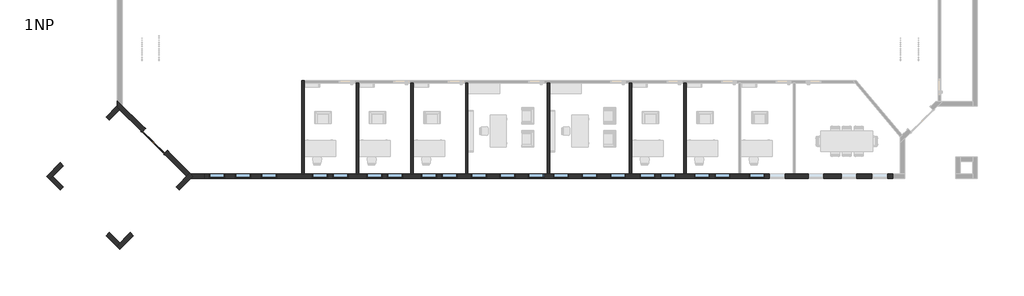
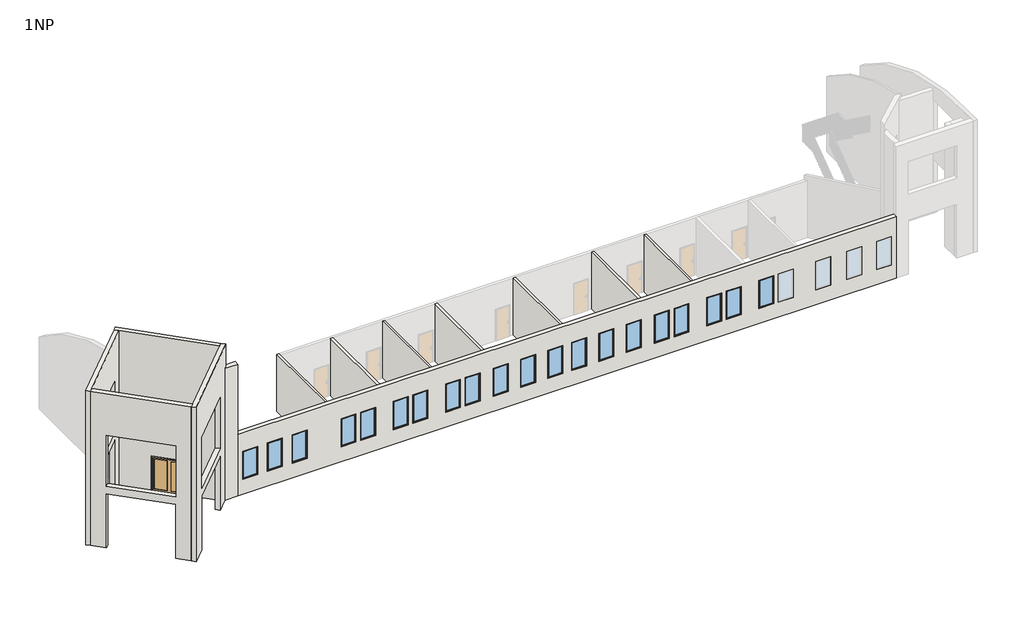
# One storey, part 1 of 3: 20 windows, 13 walls, 1 door.
"""IFC4 building model written with IfcOpenShell, lengths in millimetres."""

import ifcopenshell
import ifcopenshell.guid

model = None  # the IFC model being written
_history = None  # IfcOwnerHistory: only IFC2X3 demands one
_inside = {}  # id of a spatial element -> (the spatial element, [elements in it])
_under = {}  # id of a project, library or spatial element -> (it, [spatial elements below it])
_declared = {}  # id of a project -> (the project, [libraries it declares])
_typed = {}  # id of a type object -> (the type object, [elements of that type])
_made_of = {}  # id of a material, layer set ... -> (it, [elements and type objects made of it])


def new_model(schema):
    """Start an empty IFC model of exactly this schema.

    Asked for "IFC4X3", IfcOpenShell would pick the latest addendum, in which some entities
    have other attributes; the version numbers below select the first issue.
    IFC2X3 requires an IfcOwnerHistory on every rooted entity: one is made here for all.
    """
    global model, _history
    if schema == "IFC4X3":
        model = ifcopenshell.file(schema_version=(4, 3, 0, 0))
    else:
        model = ifcopenshell.file(schema=schema)
    _inside.clear()
    _under.clear()
    _declared.clear()
    _typed.clear()
    _made_of.clear()
    _history = None
    if model.schema == "IFC2X3":
        org = make("IfcOrganization", Name="unknown")
        user = make(
            "IfcPersonAndOrganization",
            ThePerson=make("IfcPerson", FamilyName="unknown"),
            TheOrganization=org,
        )
        app = make(
            "IfcApplication",
            ApplicationDeveloper=org,
            Version="unknown",
            ApplicationFullName="unknown",
            ApplicationIdentifier="unknown",
        )
        _history = make(
            "IfcOwnerHistory",
            OwningUser=user,
            OwningApplication=app,
            ChangeAction="ADDED",
            CreationDate=0,
        )
    return model


def make(cls, **values):
    """One entity of the class cls with the attributes given. An attribute that is None is left unset."""
    return model.create_entity(
        cls, **{name: value for name, value in values.items() if value is not None}
    )


def rooted(cls, **values):
    """An entity with a GlobalId (a new one), such as an element, a storey or a relation."""
    return make(cls, GlobalId=ifcopenshell.guid.new(), OwnerHistory=_history, **values)


def si_unit(unit_type, name, prefix=None):
    """IfcSIUnit, for example si_unit("LENGTHUNIT", "METRE", prefix="MILLI")."""
    return make("IfcSIUnit", UnitType=unit_type, Prefix=prefix, Name=name)


def assignment(units):
    """IfcUnitAssignment: the units of a project."""
    return None if units is None else make("IfcUnitAssignment", Units=units)


def point(xyz):
    """IfcCartesianPoint."""
    return None if xyz is None else make("IfcCartesianPoint", Coordinates=xyz)


def direction(xyz):
    """IfcDirection."""
    return None if xyz is None else make("IfcDirection", DirectionRatios=xyz)


def frame(location, z_axis=None, x_axis=None):
    """IfcAxis2Placement3D, a coordinate frame: its origin and axes. An axis left out is left unset."""
    return make(
        "IfcAxis2Placement3D",
        Location=point(location),
        Axis=direction(z_axis),
        RefDirection=direction(x_axis),
    )


def origin():
    """The frame at (0, 0, 0) with its axes left unset."""
    return frame((0.0, 0.0, 0.0))


def origin_with_axes():
    """The frame at (0, 0, 0) with the z axis (0, 0, 1) and the x axis (1, 0, 0) written out."""
    return frame((0.0, 0.0, 0.0), z_axis=(0.0, 0.0, 1.0), x_axis=(1.0, 0.0, 0.0))


def place(relative_to, where):
    """IfcLocalPlacement: puts the frame where relative to a parent placement (None: the world)."""
    return make(
        "IfcLocalPlacement", PlacementRelTo=relative_to, RelativePlacement=where
    )


def context(
    kind, dimensions, precision=None, world=None, true_north=None, identifier=None
):
    """IfcGeometricRepresentationContext, for example the 3D "Model" context."""
    return make(
        "IfcGeometricRepresentationContext",
        ContextIdentifier=identifier,
        ContextType=kind,
        CoordinateSpaceDimension=dimensions,
        Precision=precision,
        WorldCoordinateSystem=world,
        TrueNorth=true_north,
    )


def project(units=None, contexts=None):
    """IfcProject with its units and contexts."""
    return rooted(
        "IfcProject",
        Name="project",
        RepresentationContexts=contexts,
        UnitsInContext=assignment(units),
    )


def spatial(cls, under=None, at=None, **own):
    """A site, building, storey or space (cls), placed at a placement, below another one or the project."""
    s = rooted(cls, ObjectPlacement=at, **own)
    if under is not None:
        _under.setdefault(under.id(), (under, []))[1].append(s)
    return s


def polyline(points):
    """IfcPolyline through the points."""
    return make("IfcPolyline", Points=[point(p) for p in points])


def circle_curve(where, radius):
    """IfcCircle in the frame where."""
    return make("IfcCircle", Position=where, Radius=radius)


def ellipse_curve(where, semi_axis1, semi_axis2):
    """IfcEllipse in the frame where."""
    return make(
        "IfcEllipse", Position=where, SemiAxis1=semi_axis1, SemiAxis2=semi_axis2
    )


def outline(outer, holes=None, kind="AREA"):
    """IfcArbitraryClosedProfileDef: a profile drawn as a closed curve; with holes, ...WithVoids."""
    if holes is None:
        return make("IfcArbitraryClosedProfileDef", ProfileType=kind, OuterCurve=outer)
    return make(
        "IfcArbitraryProfileDefWithVoids",
        ProfileType=kind,
        OuterCurve=outer,
        InnerCurves=holes,
    )


def extrude(swept, where, along, depth):
    """IfcExtrudedAreaSolid: the profile swept, set in the frame where, extruded along a direction by depth."""
    return make(
        "IfcExtrudedAreaSolid",
        SweptArea=swept,
        Position=where,
        ExtrudedDirection=direction(along),
        Depth=depth,
    )


def faces_of(points, faces, orient=None, outer=None):
    """IfcFace entities. A face is a list of loops; a loop is a list of indices into points, from 0.

    orient and outer hold one flag for each loop. By default every Orientation is true, the
    first loop of a face is its IfcFaceOuterBound and the others are IfcFaceBound.
    """
    made = []
    for i, loops in enumerate(faces):
        bounds = []
        for j, loop in enumerate(loops):
            is_outer = j == 0 if outer is None else outer[i][j]
            bounds.append(
                make(
                    "IfcFaceOuterBound" if is_outer else "IfcFaceBound",
                    Bound=make("IfcPolyLoop", Polygon=[points[k] for k in loop]),
                    Orientation=True if orient is None else orient[i][j],
                )
            )
        made.append(make("IfcFace", Bounds=bounds))
    return made


def faceted_brep(points, faces, orient=None, outer=None, voids=None):
    """IfcFacetedBrep: a solid bounded by flat faces; with voids (closed shells), ...WithVoids."""
    shared = [point(p) for p in points]
    hull = make("IfcClosedShell", CfsFaces=faces_of(shared, faces, orient, outer))
    if voids is None:
        return make("IfcFacetedBrep", Outer=hull)
    return make(
        "IfcFacetedBrepWithVoids",
        Outer=hull,
        Voids=[
            make(cls, CfsFaces=faces_of(shared, fs, o, b)) for cls, fs, o, b in voids
        ],
    )


def shape(context_of_items, identifier, shape_type, items):
    """IfcShapeRepresentation: the items that make up one representation, for example the "Body"."""
    return make(
        "IfcShapeRepresentation",
        ContextOfItems=context_of_items,
        RepresentationIdentifier=identifier,
        RepresentationType=shape_type,
        Items=items,
    )


def source(mapping_origin, context_of_items, identifier, shape_type, items):
    """IfcRepresentationMap: a shape defined once, which mapped items show again and again."""
    return make(
        "IfcRepresentationMap",
        MappingOrigin=mapping_origin,
        MappedRepresentation=shape(context_of_items, identifier, shape_type, items),
    )


def transform(
    local_origin,
    x_axis=None,
    y_axis=None,
    z_axis=None,
    scale=None,
    scale2=None,
    scale3=None,
    uniform=True,
):
    """IfcCartesianTransformationOperator3D, or its non-uniform kind. x_axis, y_axis, z_axis: its Axis1, 2, 3."""
    if uniform:
        return make(
            "IfcCartesianTransformationOperator3D",
            Axis1=direction(x_axis),
            Axis2=direction(y_axis),
            LocalOrigin=point(local_origin),
            Scale=scale,
            Axis3=direction(z_axis),
        )
    return make(
        "IfcCartesianTransformationOperator3DnonUniform",
        Axis1=direction(x_axis),
        Axis2=direction(y_axis),
        LocalOrigin=point(local_origin),
        Scale=scale,
        Axis3=direction(z_axis),
        Scale2=scale2,
        Scale3=scale3,
    )


def mapped(mapping_source, mapping_target):
    """IfcMappedItem: shows the shape of a source again, moved by a transform."""
    return make(
        "IfcMappedItem", MappingSource=mapping_source, MappingTarget=mapping_target
    )


def made_of(thing, what):
    """Note that an element or type object is made of a material, layer set ...; save() writes the relation."""
    if what is not None:
        _made_of.setdefault(what.id(), (what, []))[1].append(thing)
    return thing


def element(
    cls,
    number,
    at=None,
    inside=None,
    cuts=None,
    type_object=None,
    material=None,
    context=None,
    identifier="Body",
    shape_type=None,
    held_by="IfcProductDefinitionShape",
    body=None,
    shapes=None,
    **own,
):
    """One element of the class cls, such as IfcWall. Its Tag is "e" and its number.

    at: its placement. inside: the storey or other place that contains it. cuts: it is an
    opening in that element (IfcRelVoidsElement). A single representation is given by context,
    identifier, shape_type and body (its items); several are given by shapes. held_by: the class
    of the entity that holds the representations. save() writes the other relations.
    """
    e = rooted(cls, Tag="e%d" % number, ObjectPlacement=at, **own)
    if body is not None:
        shapes = [shape(context, identifier, shape_type, body)]
    if shapes is not None:
        e.Representation = make(held_by, Representations=shapes)
    if inside is not None:
        _inside.setdefault(inside.id(), (inside, []))[1].append(e)
    if cuts is not None:
        rooted(
            "IfcRelVoidsElement", RelatingBuildingElement=cuts, RelatedOpeningElement=e
        )
    if type_object is not None:
        _typed.setdefault(type_object.id(), (type_object, []))[1].append(e)
    return made_of(e, material)


def aggregate(whole, parts):
    """IfcRelAggregates: a whole, such as a stair, and the parts it consists of."""
    return rooted("IfcRelAggregates", RelatingObject=whole, RelatedObjects=parts)


def save(model, path):
    """Write the relations noted so far, then the file.

    IfcRelAggregates (storeys below a building ...), IfcRelContainedInSpatialStructure (elements
    in a storey), IfcRelDefinesByType, IfcRelAssociatesMaterial and IfcRelDeclares: one each for
    every whole, place, type object, material and project.
    """
    for whole, parts in _under.values():
        aggregate(whole, parts)
    for where, things in _inside.values():
        rooted(
            "IfcRelContainedInSpatialStructure",
            RelatedElements=things,
            RelatingStructure=where,
        )
    for kind, things in _typed.values():
        rooted("IfcRelDefinesByType", RelatedObjects=things, RelatingType=kind)
    for what, things in _made_of.values():
        rooted("IfcRelAssociatesMaterial", RelatedObjects=things, RelatingMaterial=what)
    for by, libraries in _declared.values():
        rooted("IfcRelDeclares", RelatingContext=by, RelatedDefinitions=libraries)
    model.write(path)


def plane_surface(at):
    """IfcPlane: the flat surface through the origin of the frame at, square to its z axis."""
    return make("IfcPlane", Position=at)


def cylinder_surface(at, radius):
    """IfcCylindricalSurface: all points at the distance radius from the z axis of the frame at."""
    return make("IfcCylindricalSurface", Position=at, Radius=radius)


def advanced_brep(points, edges, surfaces, faces):
    """IfcAdvancedBrep: a solid bounded by faces that lie on surfaces and meet in shared edges.

    An edge is (start, end): straight between two places in points (the first is 0);
    or (start, end, curve); or (start, end, curve, False) where it runs against its curve.
    A face is (place in surfaces, loops), or (place, loops, False) where it looks against
    its surface's normal. A loop lists edges by number (the first is 1), with a minus sign
    where the edge is run from its end to its start. The first loop is the outer one.
    """
    corners = [point(p) for p in points]
    vertices = [make("IfcVertexPoint", VertexGeometry=c) for c in corners]
    made = []
    for start, end, *more in edges:
        made.append(
            make(
                "IfcEdgeCurve",
                EdgeStart=vertices[start],
                EdgeEnd=vertices[end],
                EdgeGeometry=more[0] if more else make("IfcPolyline", Points=[corners[start], corners[end]]),
                SameSense=more[1] if len(more) > 1 else True,
            )
        )
    hull = []
    for where, loops, *sense in faces:
        bounds = []
        for j, loop in enumerate(loops):
            ring = [make("IfcOrientedEdge", EdgeElement=made[abs(k) - 1], Orientation=k > 0) for k in loop]
            bounds.append(
                make(
                    "IfcFaceOuterBound" if j == 0 else "IfcFaceBound",
                    Bound=make("IfcEdgeLoop", EdgeList=ring),
                    Orientation=True,
                )
            )
        hull.append(make("IfcAdvancedFace", Bounds=bounds, FaceSurface=surfaces[where], SameSense=sense[0] if sense else True))
    return make("IfcAdvancedBrep", Outer=make("IfcClosedShell", CfsFaces=hull))


def door_1800_x_1970mm_ce9160c6(model_context):
    return source(origin(), model_context, "Body", "SweptSolid", [
        extrude(outline(polyline([(0.0, 991.0), (2210.0, 991.0), (2210.0, -991.0), (0.0, -991.0), (0.0, -915.0), (2134.0, -915.0), (2134.0, 915.0), (0.0, 915.0), (0.0, 991.0)])), frame((0.0, -156.11875, 0.0), z_axis=(0.0, 1.0, 0.0), x_axis=(0.0, 0.0, 1.0)), (0.0, 0.0, 1.0), 25.0),
        extrude(outline(polyline([(2134.0, 915.0), (0.0, 915.0), (0.0, 991.0), (2210.0, 991.0), (2210.0, -991.0), (0.0, -991.0), (0.0, -915.0), (2134.0, -915.0), (2134.0, 915.0)])), frame((0.0, 135.88125, 0.0), z_axis=(0.0, 1.0, 0.0), x_axis=(0.0, 0.0, 1.0)), (0.0, 0.0, 1.0), 25.0),
        extrude(outline(polyline([(813.4, 110.48125), (101.6, 110.48125), (101.6, 117.625), (813.4, 117.625), (813.4, 110.48125)])), frame((0.0, 0.0, 102.0), z_axis=(0.0, 0.0, 1.0), x_axis=(1.0, 0.0, 0.0)), (0.0, 0.0, 1.0), 1930.0),
        extrude(outline(polyline([(-101.6, 110.48125), (-813.4, 110.48125), (-813.4, 117.625), (-101.6, 117.625), (-101.6, 110.48125)])), frame((0.0, 0.0, 102.0), z_axis=(0.0, 0.0, 1.0), x_axis=(1.0, 0.0, 0.0)), (0.0, 0.0, 1.0), 1930.0),
        extrude(outline(polyline([(2134.0, 915.0), (2134.0, -915.0), (0.0, -915.0), (0.0, 915.0), (2134.0, 915.0)]), holes=[polyline([(2032.0, -101.6), (102.0, -101.6), (102.0, -813.4), (2032.0, -813.4), (2032.0, -101.6)]), polyline([(2032.0, 813.4), (102.0, 813.4), (102.0, 101.6), (2032.0, 101.6), (2032.0, 813.4)])]), frame((0.0, 84.88125, 0.0), z_axis=(0.0, 1.0, 0.0), x_axis=(0.0, 0.0, 1.0)), (0.0, 0.0, 1.0), 51.0),
    ])


def window_0915_x_1830mm_7ee91fd3(model_context):
    return source(origin(), model_context, "Body", "SweptSolid", [
        extrude(outline(polyline([(-394.5, 111.5), (394.5, 111.5), (394.5, 99.5), (-394.5, 99.5), (-394.5, 111.5)])), frame((0.0, 0.0, 368.0), z_axis=(0.0, 0.0, 1.0), x_axis=(1.0, 0.0, 0.0)), (0.0, 0.0, 1.0), 1704.0),
        extrude(outline(polyline([(2116.0, -438.5), (324.0, -438.5), (324.0, 438.5), (2116.0, 438.5), (2116.0, -438.5)]), holes=[polyline([(2072.0, -394.5), (2072.0, 394.5), (368.0, 394.5), (368.0, -394.5), (2072.0, -394.5)])]), frame((0.0, 83.5, 0.0), z_axis=(0.0, 1.0, 0.0), x_axis=(0.0, 0.0, 1.0)), (0.0, 0.0, 1.0), 44.0),
        extrude(outline(polyline([(2135.0, -457.5), (305.0, -457.5), (305.0, 457.5), (2135.0, 457.5), (2135.0, -457.5)]), holes=[polyline([(2116.0, -438.5), (2116.0, 438.5), (324.0, 438.5), (324.0, -438.5), (2116.0, -438.5)])]), frame((0.0, 83.5, 0.0), z_axis=(0.0, 1.0, 0.0), x_axis=(0.0, 0.0, 1.0)), (0.0, 0.0, 1.0), 63.0),
        extrude(outline(polyline([(2135.0, -457.5), (305.0, -457.5), (305.0, 457.5), (2135.0, 457.5), (2135.0, -457.5)]), holes=[polyline([(2103.0, -425.5), (2103.0, 425.5), (337.0, 425.5), (337.0, -425.5), (2103.0, -425.5)])]), frame((0.0, -120.5, 0.0), z_axis=(0.0, 1.0, 0.0), x_axis=(0.0, 0.0, 1.0)), (0.0, 0.0, 1.0), 204.0),
    ])


model = new_model("IFC4")

# Units and contexts
model_context = context("Model", 3, world=origin())
ifc_project = project(units=[si_unit("LENGTHUNIT", "METRE", prefix="MILLI")], contexts=[model_context])

# Site, building, storey
site = spatial("IfcSite", under=ifc_project)
building = spatial("IfcBuilding", under=site)
storey = spatial("IfcBuildingStorey", under=building, Name="1NP", Elevation=0.0)

# Door
placement = place(None, origin())
door_1800_x_1970mm_shape = door_1800_x_1970mm_ce9160c6(model_context)
element("IfcDoor", 1, ObjectType="Dvoukridle prosklene : 1800 x 1970mm", at=placement, inside=storey, context=model_context, shape_type="MappedRepresentation", body=[
    mapped(door_1800_x_1970mm_shape, transform((-9492.0310093, -2706.151406, 0.0), x_axis=(-0.7071067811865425, 0.7071067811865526, 0.0), y_axis=(-0.7071067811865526, -0.7071067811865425, 0.0), z_axis=(0.0, 0.0, 1.0))),
])

# Walls
element("IfcWall", 2, ObjectType="Exterior - EIFS on Mtl. Stud", at=placement, inside=storey, context=model_context, shape_type="AdvancedBrep", body=[
    advanced_brep(
    [(-6587.8076313, -4624.9448694, 0.0), (-7387.8076313, -4624.9448694, 0.0), (-7387.8076313, -4624.9448694, 8556.4380679), (-6587.8076313, -4624.9448694, 8556.4380679), (-6587.8076313, -4624.9448694, 8000.0), (-6587.8076313, -4624.9448694, 4000.0), (-6587.8076313, -4891.9448694, 0.0), (-6587.8076313, -4891.9448694, 4000.0), (-6587.8076313, -4891.9448694, 8000.0), (-6587.8076313, -4891.9448694, 8541.7849302), (-7387.8076313, -4891.9448694, 8541.7849302), (-7387.8076313, -4891.9448694, 0.0), (-7254.3076313, -4758.4448694, 0.0), (-7254.3076313, -4758.4448694, 8549.6141311)],
    [
        (0, 1),
        (1, 2),
        (2, 3),
        (3, 4),
        (4, 5),
        (5, 0),
        (6, 7),
        (7, 8),
        (8, 9),
        (9, 10),
        (10, 11),
        (11, 6),
        (0, 6),
        (11, 12),
        (12, 1),
        (3, 9, circle_curve(frame((-6587.8076313, -3782.5530793, -9232.9575956), z_axis=(1.0, 0.0, 0.0), x_axis=(0.0, -1.0, 0.0)), 17809.3296337)),
        (12, 13),
        (13, 2, ellipse_curve(frame((-8230.1994214, -3782.5530793, -9232.9575956), z_axis=(-0.7071067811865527, -0.7071067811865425, 0.0), x_axis=(0.7071067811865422, -0.7071067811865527, 0.0)), 25186.1955048, 17809.3296337)),
        (10, 13, ellipse_curve(frame((-6278.4158411, -3782.5530793, -9232.9575956), z_axis=(-0.7071067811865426, 0.7071067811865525, 0.0), x_axis=(0.7071067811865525, 0.7071067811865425, 0.0)), 25186.1955048, 17809.3296337)),
    ],
    [
        plane_surface(frame((12455.6755273, -4624.9448694, 0.0), z_axis=(0.0, 1.0, 0.0), x_axis=(-1.0, 0.0, 0.0))),
        plane_surface(frame((12455.6755273, -4891.9448694, 0.0), z_axis=(0.0, -1.0, 0.0), x_axis=(1.0, 0.0, 0.0))),
        plane_surface(frame((-6587.8076313, -4624.9448694, 0.0), z_axis=(0.0, 0.0, -1.0), x_axis=(0.0, -1.0, 0.0))),
        plane_surface(frame((-6587.8076313, -4624.9448694, 4000.0), z_axis=(1.0, 0.0, 0.0), x_axis=(0.0, -1.0, 0.0))),
        plane_surface(frame((-9352.1166743, -2660.6358263, -427.8219034), z_axis=(-0.7071067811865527, -0.7071067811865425, 0.0), x_axis=(0.7071067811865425, -0.7071067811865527, 0.0))),
        plane_surface(frame((-9352.1166743, -6856.2539125, -427.8219034), z_axis=(-0.7071067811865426, 0.7071067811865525, 0.0), x_axis=(-0.7071067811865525, -0.7071067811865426, 0.0))),
        cylinder_surface(frame((39922.6755273, -3782.5530793, -9232.9575956), z_axis=(1.0, 0.0, 0.0), x_axis=(0.0, -1.0, 0.0)), 17809.3296337),
    ],
    [
        (0, [[1, 2, 3, 4, 5, 6]]),
        (1, [[7, 8, 9, 10, 11, 12]]),
        (2, [[-1, 13, -12, 14, 15]]),
        (3, [[-6, -5, -4, 16, -9, -8, -7, -13]]),
        (4, [[-2, -15, 17, 18]]),
        (5, [[-14, -11, 19, -17]]),
        (6, [[-3, -18, -19, -10, -16]]),
    ],
),
])
element("IfcWall", 3, ObjectType="Exterior - EIFS on Mtl. Stud", at=placement, inside=storey, context=model_context, shape_type="Brep", body=[
    faceted_brep([(33755.6755273, -4624.9448694, 0.0), (28058.4255273, -4624.9448694, 0.0), (27919.9255273, -4624.9448694, 0.0), (24858.4255273, -4624.9448694, 0.0), (24719.9255273, -4624.9448694, 0.0), (21658.4255273, -4624.9448694, 0.0), (21519.9255273, -4624.9448694, 0.0), (18458.4255273, -4624.9448694, 0.0), (18319.9255273, -4624.9448694, 0.0), (13658.4255273, -4624.9448694, 0.0), (13519.9255273, -4624.9448694, 0.0), (8858.4255273, -4624.9448694, 0.0), (8719.9255273, -4624.9448694, 0.0), (5658.4255273, -4624.9448694, 0.0), (5519.9255273, -4624.9448694, 0.0), (2458.4255273, -4624.9448694, 0.0), (2319.9255273, -4624.9448694, 0.0), (-741.5744727, -4624.9448694, 0.0), (-880.0744727, -4624.9448694, 0.0), (-6587.8076313, -4624.9448694, 0.0), (-6587.8076313, -4624.9448694, 4000.0), (33755.6755273, -4624.9448694, 4000.0), (33455.6755273, -4624.9448694, 970.0), (33455.6755273, -4624.9448694, 2800.0), (32540.6755273, -4624.9448694, 2800.0), (32540.6755273, -4624.9448694, 970.0), (31640.6755273, -4624.9448694, 970.0), (31640.6755273, -4624.9448694, 2800.0), (30725.6755273, -4624.9448694, 2800.0), (30725.6755273, -4624.9448694, 970.0), (29725.6755273, -4624.9448694, 970.0), (29725.6755273, -4624.9448694, 2800.0), (28810.6755273, -4624.9448694, 2800.0), (28810.6755273, -4624.9448694, 970.0), (-5380.0744727, -4624.9448694, 970.0), (-5380.0744727, -4624.9448694, 2800.0), (-6295.0744727, -4624.9448694, 2800.0), (-6295.0744727, -4624.9448694, 970.0), (-3865.0744727, -4624.9448694, 970.0), (-3865.0744727, -4624.9448694, 2800.0), (-4780.0744727, -4624.9448694, 2800.0), (-4780.0744727, -4624.9448694, 970.0), (-2350.0744727, -4624.9448694, 970.0), (-2350.0744727, -4624.9448694, 2800.0), (-3265.0744727, -4624.9448694, 2800.0), (-3265.0744727, -4624.9448694, 970.0), (646.6755273, -4624.9448694, 970.0), (646.6755273, -4624.9448694, 2800.0), (-268.3244727, -4624.9448694, 2800.0), (-268.3244727, -4624.9448694, 970.0), (1846.6755273, -4624.9448694, 970.0), (1846.6755273, -4624.9448694, 2800.0), (931.6755273, -4624.9448694, 2800.0), (931.6755273, -4624.9448694, 970.0), (9973.4255273, -4624.9448694, 970.0), (9973.4255273, -4624.9448694, 2800.0), (9058.4255273, -4624.9448694, 2800.0), (9058.4255273, -4624.9448694, 970.0), (13319.9255273, -4624.9448694, 970.0), (13319.9255273, -4624.9448694, 2800.0), (12404.9255273, -4624.9448694, 2800.0), (12404.9255273, -4624.9448694, 970.0), (11646.4255273, -4624.9448694, 970.0), (11646.4255273, -4624.9448694, 2800.0), (10731.4255273, -4624.9448694, 2800.0), (10731.4255273, -4624.9448694, 970.0), (14773.4255273, -4624.9448694, 970.0), (14773.4255273, -4624.9448694, 2800.0), (13858.4255273, -4624.9448694, 2800.0), (13858.4255273, -4624.9448694, 970.0), (18119.9255273, -4624.9448694, 970.0), (18119.9255273, -4624.9448694, 2800.0), (17204.9255273, -4624.9448694, 2800.0), (17204.9255273, -4624.9448694, 970.0), (16446.4255273, -4624.9448694, 970.0), (16446.4255273, -4624.9448694, 2800.0), (15531.4255273, -4624.9448694, 2800.0), (15531.4255273, -4624.9448694, 970.0), (3846.6755273, -4624.9448694, 970.0), (3846.6755273, -4624.9448694, 2800.0), (2931.6755273, -4624.9448694, 2800.0), (2931.6755273, -4624.9448694, 970.0), (5046.6755273, -4624.9448694, 970.0), (5046.6755273, -4624.9448694, 2800.0), (4131.6755273, -4624.9448694, 2800.0), (4131.6755273, -4624.9448694, 970.0), (7046.6755273, -4624.9448694, 970.0), (7046.6755273, -4624.9448694, 2800.0), (6131.6755273, -4624.9448694, 2800.0), (6131.6755273, -4624.9448694, 970.0), (8246.6755273, -4624.9448694, 970.0), (8246.6755273, -4624.9448694, 2800.0), (7331.6755273, -4624.9448694, 2800.0), (7331.6755273, -4624.9448694, 970.0), (19846.6755273, -4624.9448694, 970.0), (19846.6755273, -4624.9448694, 2800.0), (18931.6755273, -4624.9448694, 2800.0), (18931.6755273, -4624.9448694, 970.0), (21046.6755273, -4624.9448694, 970.0), (21046.6755273, -4624.9448694, 2800.0), (20131.6755273, -4624.9448694, 2800.0), (20131.6755273, -4624.9448694, 970.0), (23046.6755273, -4624.9448694, 970.0), (23046.6755273, -4624.9448694, 2800.0), (22131.6755273, -4624.9448694, 2800.0), (22131.6755273, -4624.9448694, 970.0), (24246.6755273, -4624.9448694, 970.0), (24246.6755273, -4624.9448694, 2800.0), (23331.6755273, -4624.9448694, 2800.0), (23331.6755273, -4624.9448694, 970.0), (26246.6755273, -4624.9448694, 970.0), (26246.6755273, -4624.9448694, 2800.0), (25331.6755273, -4624.9448694, 2800.0), (25331.6755273, -4624.9448694, 970.0), (27446.6755273, -4624.9448694, 970.0), (27446.6755273, -4624.9448694, 2800.0), (26531.6755273, -4624.9448694, 2800.0), (26531.6755273, -4624.9448694, 970.0), (-6587.8076313, -4891.9448694, 0.0), (33755.6755273, -4891.9448694, 0.0), (33755.6755273, -4891.9448694, 4000.0), (-6587.8076313, -4891.9448694, 4000.0), (33455.6755273, -4891.9448694, 2800.0), (33455.6755273, -4891.9448694, 970.0), (32540.6755273, -4891.9448694, 970.0), (32540.6755273, -4891.9448694, 2800.0), (31640.6755273, -4891.9448694, 2800.0), (31640.6755273, -4891.9448694, 970.0), (30725.6755273, -4891.9448694, 970.0), (30725.6755273, -4891.9448694, 2800.0), (29725.6755273, -4891.9448694, 2800.0), (29725.6755273, -4891.9448694, 970.0), (28810.6755273, -4891.9448694, 970.0), (28810.6755273, -4891.9448694, 2800.0), (-5380.0744727, -4891.9448694, 2800.0), (-5380.0744727, -4891.9448694, 970.0), (-6295.0744727, -4891.9448694, 970.0), (-6295.0744727, -4891.9448694, 2800.0), (-3865.0744727, -4891.9448694, 2800.0), (-3865.0744727, -4891.9448694, 970.0), (-4780.0744727, -4891.9448694, 970.0), (-4780.0744727, -4891.9448694, 2800.0), (-2350.0744727, -4891.9448694, 2800.0), (-2350.0744727, -4891.9448694, 970.0), (-3265.0744727, -4891.9448694, 970.0), (-3265.0744727, -4891.9448694, 2800.0), (646.6755273, -4891.9448694, 2800.0), (646.6755273, -4891.9448694, 970.0), (-268.3244727, -4891.9448694, 970.0), (-268.3244727, -4891.9448694, 2800.0), (1846.6755273, -4891.9448694, 2800.0), (1846.6755273, -4891.9448694, 970.0), (931.6755273, -4891.9448694, 970.0), (931.6755273, -4891.9448694, 2800.0), (9973.4255273, -4891.9448694, 2800.0), (9973.4255273, -4891.9448694, 970.0), (9058.4255273, -4891.9448694, 970.0), (9058.4255273, -4891.9448694, 2800.0), (13319.9255273, -4891.9448694, 2800.0), (13319.9255273, -4891.9448694, 970.0), (12404.9255273, -4891.9448694, 970.0), (12404.9255273, -4891.9448694, 2800.0), (11646.4255273, -4891.9448694, 2800.0), (11646.4255273, -4891.9448694, 970.0), (10731.4255273, -4891.9448694, 970.0), (10731.4255273, -4891.9448694, 2800.0), (14773.4255273, -4891.9448694, 970.0), (13858.4255273, -4891.9448694, 970.0), (13858.4255273, -4891.9448694, 2800.0), (14773.4255273, -4891.9448694, 2800.0), (18119.9255273, -4891.9448694, 970.0), (17204.9255273, -4891.9448694, 970.0), (17204.9255273, -4891.9448694, 2800.0), (18119.9255273, -4891.9448694, 2800.0), (16446.4255273, -4891.9448694, 970.0), (15531.4255273, -4891.9448694, 970.0), (15531.4255273, -4891.9448694, 2800.0), (16446.4255273, -4891.9448694, 2800.0), (3846.6755273, -4891.9448694, 970.0), (2931.6755273, -4891.9448694, 970.0), (2931.6755273, -4891.9448694, 2800.0), (3846.6755273, -4891.9448694, 2800.0), (5046.6755273, -4891.9448694, 970.0), (4131.6755273, -4891.9448694, 970.0), (4131.6755273, -4891.9448694, 2800.0), (5046.6755273, -4891.9448694, 2800.0), (7046.6755273, -4891.9448694, 970.0), (6131.6755273, -4891.9448694, 970.0), (6131.6755273, -4891.9448694, 2800.0), (7046.6755273, -4891.9448694, 2800.0), (8246.6755273, -4891.9448694, 970.0), (7331.6755273, -4891.9448694, 970.0), (7331.6755273, -4891.9448694, 2800.0), (8246.6755273, -4891.9448694, 2800.0), (19846.6755273, -4891.9448694, 970.0), (18931.6755273, -4891.9448694, 970.0), (18931.6755273, -4891.9448694, 2800.0), (19846.6755273, -4891.9448694, 2800.0), (21046.6755273, -4891.9448694, 970.0), (20131.6755273, -4891.9448694, 970.0), (20131.6755273, -4891.9448694, 2800.0), (21046.6755273, -4891.9448694, 2800.0), (23046.6755273, -4891.9448694, 970.0), (22131.6755273, -4891.9448694, 970.0), (22131.6755273, -4891.9448694, 2800.0), (23046.6755273, -4891.9448694, 2800.0), (24246.6755273, -4891.9448694, 970.0), (23331.6755273, -4891.9448694, 970.0), (23331.6755273, -4891.9448694, 2800.0), (24246.6755273, -4891.9448694, 2800.0), (26246.6755273, -4891.9448694, 970.0), (25331.6755273, -4891.9448694, 970.0), (25331.6755273, -4891.9448694, 2800.0), (26246.6755273, -4891.9448694, 2800.0), (27446.6755273, -4891.9448694, 970.0), (26531.6755273, -4891.9448694, 970.0), (26531.6755273, -4891.9448694, 2800.0), (27446.6755273, -4891.9448694, 2800.0)], [[[0, 1, 2, 3, 4, 5, 6, 7, 8, 9, 10, 11, 12, 13, 14, 15, 16, 17, 18, 19, 20, 21], [22, 23, 24, 25], [26, 27, 28, 29], [30, 31, 32, 33], [34, 35, 36, 37], [38, 39, 40, 41], [42, 43, 44, 45], [46, 47, 48, 49], [50, 51, 52, 53], [54, 55, 56, 57], [58, 59, 60, 61], [62, 63, 64, 65], [66, 67, 68, 69], [70, 71, 72, 73], [74, 75, 76, 77], [78, 79, 80, 81], [82, 83, 84, 85], [86, 87, 88, 89], [90, 91, 92, 93], [94, 95, 96, 97], [98, 99, 100, 101], [102, 103, 104, 105], [106, 107, 108, 109], [110, 111, 112, 113], [114, 115, 116, 117]], [[118, 119, 120, 121], [122, 123, 124, 125], [126, 127, 128, 129], [130, 131, 132, 133], [134, 135, 136, 137], [138, 139, 140, 141], [142, 143, 144, 145], [146, 147, 148, 149], [150, 151, 152, 153], [154, 155, 156, 157], [158, 159, 160, 161], [162, 163, 164, 165], [166, 167, 168, 169], [170, 171, 172, 173], [174, 175, 176, 177], [178, 179, 180, 181], [182, 183, 184, 185], [186, 187, 188, 189], [190, 191, 192, 193], [194, 195, 196, 197], [198, 199, 200, 201], [202, 203, 204, 205], [206, 207, 208, 209], [210, 211, 212, 213], [214, 215, 216, 217]], [[19, 18, 17, 16, 15, 14, 13, 12, 11, 10, 9, 8, 7, 6, 5, 4, 3, 2, 1, 0, 119, 118]], [[20, 19, 118, 121]], [[21, 20, 121, 120]], [[21, 120, 119, 0]], [[23, 22, 123, 122]], [[24, 23, 122, 125]], [[25, 24, 125, 124]], [[22, 25, 124, 123]], [[27, 26, 127, 126]], [[28, 27, 126, 129]], [[29, 28, 129, 128]], [[26, 29, 128, 127]], [[31, 30, 131, 130]], [[32, 31, 130, 133]], [[33, 32, 133, 132]], [[30, 33, 132, 131]], [[34, 135, 134, 35]], [[35, 134, 137, 36]], [[136, 37, 36, 137]], [[135, 34, 37, 136]], [[39, 38, 139, 138]], [[40, 39, 138, 141]], [[41, 40, 141, 140]], [[38, 41, 140, 139]], [[43, 42, 143, 142]], [[44, 43, 142, 145]], [[45, 44, 145, 144]], [[42, 45, 144, 143]], [[47, 46, 147, 146]], [[48, 47, 146, 149]], [[49, 48, 149, 148]], [[46, 49, 148, 147]], [[51, 50, 151, 150]], [[52, 51, 150, 153]], [[53, 52, 153, 152]], [[50, 53, 152, 151]], [[55, 54, 155, 154]], [[56, 55, 154, 157]], [[57, 56, 157, 156]], [[54, 57, 156, 155]], [[59, 58, 159, 158]], [[60, 59, 158, 161]], [[61, 60, 161, 160]], [[58, 61, 160, 159]], [[62, 163, 162, 63]], [[63, 162, 165, 64]], [[64, 165, 164, 65]], [[163, 62, 65, 164]], [[67, 66, 166, 169]], [[68, 67, 169, 168]], [[69, 68, 168, 167]], [[66, 69, 167, 166]], [[71, 70, 170, 173]], [[72, 71, 173, 172]], [[73, 72, 172, 171]], [[70, 73, 171, 170]], [[75, 74, 174, 177]], [[76, 75, 177, 176]], [[77, 76, 176, 175]], [[74, 77, 175, 174]], [[79, 78, 178, 181]], [[80, 79, 181, 180]], [[81, 80, 180, 179]], [[78, 81, 179, 178]], [[83, 82, 182, 185]], [[84, 83, 185, 184]], [[85, 84, 184, 183]], [[82, 85, 183, 182]], [[87, 86, 186, 189]], [[88, 87, 189, 188]], [[89, 88, 188, 187]], [[86, 89, 187, 186]], [[91, 90, 190, 193]], [[92, 91, 193, 192]], [[93, 92, 192, 191]], [[90, 93, 191, 190]], [[95, 94, 194, 197]], [[96, 95, 197, 196]], [[97, 96, 196, 195]], [[94, 97, 195, 194]], [[99, 98, 198, 201]], [[100, 99, 201, 200]], [[101, 100, 200, 199]], [[98, 101, 199, 198]], [[103, 102, 202, 205]], [[104, 103, 205, 204]], [[105, 104, 204, 203]], [[102, 105, 203, 202]], [[107, 106, 206, 209]], [[108, 107, 209, 208]], [[109, 108, 208, 207]], [[106, 109, 207, 206]], [[111, 110, 210, 213]], [[112, 111, 213, 212]], [[113, 112, 212, 211]], [[110, 113, 211, 210]], [[115, 114, 214, 217]], [[116, 115, 217, 216]], [[117, 116, 216, 215]], [[114, 117, 215, 214]]]),
])
element("IfcWall", 4, ObjectType="Exterior - EIFS on Mtl. Stud 2side", at=placement, inside=storey, context=model_context, shape_type="Brep", body=[
    faceted_brep([(-7443.1051418, -4569.6473588, 10000.0), (-7443.1051418, -4569.6473588, 0.0), (-7631.9026524, -4758.4448694, 0.0), (-8244.6106783, -5371.1528953, 0.0), (-8244.6106783, -5371.1528953, 3500.0), (-10931.6164468, -8058.1586638, 3500.0), (-10931.6164468, -8058.1586638, 0.0), (-11544.3244727, -8670.8666897, 0.0), (-11733.1219833, -8859.6642003, 0.0), (-11733.1219833, -8859.6642003, 10000.0), (-11544.3244727, -8670.8666897, 10000.0), (-7631.9026524, -4758.4448694, 10000.0), (-8244.6106783, -5371.1528953, 4000.0), (-8244.6106783, -5371.1528953, 7300.0), (-10931.6164468, -8058.1586638, 7300.0), (-10931.6164468, -8058.1586638, 4000.0), (-7254.3076313, -4758.4448694, 0.0), (-7254.3076313, -4758.4448694, 8549.6141311), (-7254.3076313, -4758.4448694, 10000.0), (-11544.3244727, -9048.4617109, 10000.0), (-11544.3244727, -9048.4617109, 0.0), (-10742.8189362, -8246.9561744, 0.0), (-10742.8189362, -8246.9561744, 3500.0), (-8055.8131677, -5559.9504059, 3500.0), (-8055.8131677, -5559.9504059, 0.0), (-7387.8076313, -4891.9448694, 0.0), (-8055.8131677, -5559.9504059, 4000.0), (-10742.8189362, -8246.9561744, 4000.0), (-10742.8189362, -8246.9561744, 7300.0), (-8055.8131677, -5559.9504059, 7300.0), (-7387.8076313, -4624.9448694, 0.0)], [[[0, 1, 2, 3, 4, 5, 6, 7, 8, 9, 10, 11], [12, 13, 14, 15]], [[16, 17, 18, 19, 20, 21, 22, 23, 24, 25], [26, 27, 28, 29]], [[3, 2, 1, 30, 16, 25, 24]], [[4, 3, 24, 23]], [[5, 4, 23, 22]], [[6, 5, 22, 21]], [[8, 7, 6, 21, 20]], [[0, 11, 10, 9, 19, 18]], [[13, 12, 26, 29]], [[14, 13, 29, 28]], [[15, 14, 28, 27]], [[12, 15, 27, 26]], [[0, 18, 17, 16, 30, 1]], [[9, 8, 20, 19]]]),
])
element("IfcWall", 5, ObjectType="Exterior - EIFS on Mtl. Stud 2side", at=placement, inside=storey, context=model_context, shape_type="Brep", body=[
    faceted_brep([(-7631.9026524, -4758.4448694, 10000.0), (-11544.3244727, -846.0230491, 10000.0), (-11733.1219833, -657.2255385, 10000.0), (-11733.1219833, -657.2255385, 8290.0514578), (-11677.8244727, -712.5230491, 8290.0514578), (-11677.8244727, -712.5230491, 0.0), (-11544.3244727, -846.0230491, 0.0), (-10235.1162674, -2155.2312545, 0.0), (-10235.1162674, -2155.2312545, 2134.0), (-8941.1108578, -3449.2366641, 2134.0), (-8941.1108578, -3449.2366641, 0.0), (-7631.9026524, -4758.4448694, 0.0), (-11544.3244727, -468.428028, 10000.0), (-7443.1051418, -4569.6473588, 10000.0), (-7443.1051418, -4569.6473588, 0.0), (-8752.3133472, -3260.4391535, 0.0), (-8752.3133472, -3260.4391535, 2134.0), (-10046.3187568, -1966.4337439, 2134.0), (-10046.3187568, -1966.4337439, 0.0), (-11410.8244727, -601.928028, 0.0), (-11677.8244727, -334.928028, 0.0), (-11677.8244727, -334.928028, 8239.4808006), (-11677.8244727, -334.928028, 8290.0514578), (-11544.3244727, -468.428028, 8290.0514578), (-11677.8244727, -601.928028, 0.0), (-11677.8244727, -601.928028, 8290.0514578)], [[[0, 1, 2, 3, 4, 5, 6, 7, 8, 9, 10, 11]], [[12, 13, 14, 15, 16, 17, 18, 19, 20, 21, 22, 23]], [[5, 24, 20, 19, 18, 7, 6]], [[14, 11, 10, 15]], [[2, 1, 0, 13, 12]], [[4, 3, 25]], [[5, 4, 25, 22, 21, 20, 24]], [[3, 2, 12, 23, 25]], [[23, 22, 25]], [[11, 14, 13, 0]], [[8, 7, 18, 17]], [[9, 8, 17, 16]], [[10, 9, 16, 15]]]),
])
element("IfcWall", 6, ObjectType="Exterior - EIFS on Mtl. Stud 2side", at=placement, inside=storey, context=model_context, shape_type="Brep", body=[
    faceted_brep([(-11677.8244727, -601.928028, 0.0), (-12345.8300092, -1269.9335644, 0.0), (-12345.8300092, -1269.9335644, 3500.0), (-15032.8357777, -3956.939333, 3500.0), (-15032.8357777, -3956.939333, 0.0), (-15834.3413142, -4758.4448694, 0.0), (-15834.3413142, -4758.4448694, 10000.0), (-11733.1219833, -657.2255385, 10000.0), (-11733.1219833, -657.2255385, 8290.0514578), (-11677.8244727, -601.928028, 8290.0514578), (-12345.8300092, -1269.9335644, 4000.0), (-12345.8300092, -1269.9335644, 7300.0), (-15032.8357777, -3956.939333, 7300.0), (-15032.8357777, -3956.939333, 4000.0), (-11544.3244727, -846.0230491, 0.0), (-11544.3244727, -846.0230491, 8290.0514578), (-11544.3244727, -846.0230491, 10000.0), (-15456.746293, -4758.4448694, 10000.0), (-15645.5438036, -4947.24238, 10000.0), (-15645.5438036, -4947.24238, 0.0), (-15456.746293, -4758.4448694, 0.0), (-14844.0382671, -4145.7368435, 0.0), (-14844.0382671, -4145.7368435, 3500.0), (-12157.0324986, -1458.731075, 3500.0), (-12157.0324986, -1458.731075, 0.0), (-12157.0324986, -1458.731075, 4000.0), (-14844.0382671, -4145.7368435, 4000.0), (-14844.0382671, -4145.7368435, 7300.0), (-12157.0324986, -1458.731075, 7300.0), (-11677.8244727, -712.5230491, 0.0), (-11677.8244727, -712.5230491, 8290.0514578)], [[[0, 1, 2, 3, 4, 5, 6, 7, 8, 9], [10, 11, 12, 13]], [[14, 15, 16, 17, 18, 19, 20, 21, 22, 23, 24], [25, 26, 27, 28]], [[1, 0, 29, 14, 24]], [[2, 1, 24, 23]], [[3, 2, 23, 22]], [[4, 3, 22, 21]], [[5, 4, 21, 20, 19]], [[7, 6, 18, 17, 16]], [[11, 10, 25, 28]], [[12, 11, 28, 27]], [[13, 12, 27, 26]], [[10, 13, 26, 25]], [[6, 5, 19, 18]], [[8, 30, 9]], [[0, 9, 30, 29]], [[30, 15, 14, 29]], [[8, 7, 16, 15, 30]]]),
])
element("IfcWall", 7, ObjectType="Exterior - EIFS on Mtl. Stud 2side", at=placement, inside=storey, context=model_context, shape_type="SweptSolid", body=[
    extrude(outline(polyline([(133.5, 0.0), (1000.0, 0.0), (1000.0, -3500.0), (4800.0, -3500.0), (4800.0, 0.0), (5666.5, 0.0), (5666.5, -10000.0), (133.5, -10000.0), (133.5, 0.0)]), holes=[polyline([(1000.0, -4000.0), (1000.0, -7300.0), (4800.0, -7300.0), (4800.0, -4000.0), (1000.0, -4000.0)])]), frame((-15739.9425589, -4852.8436247, 0.0), z_axis=(0.7071067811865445, 0.7071067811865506, 0.0), x_axis=(0.7071067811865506, -0.7071067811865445, 0.0)), (0.0, 0.0, 1.0), 267.0),
])
element("IfcWall", 8, ObjectType="Interior - 138mm Partition (1-hr)", at=placement, inside=storey, context=model_context, shape_type="Brep", body=[
    faceted_brep([(-741.5744727, -4624.9448694, 0.0), (-741.5744727, 722.3051306, 0.0), (-741.5744727, 860.8051306, 0.0), (-741.5744727, 860.8051306, 3700.0), (-741.5744727, 722.3051306, 3700.0), (-741.5744727, -4624.9448694, 3700.0), (-880.0744727, -4624.9448694, 0.0), (-880.0744727, -4624.9448694, 3700.0), (-880.0744727, 860.8051306, 3700.0), (-880.0744727, 860.8051306, 0.0)], [[[0, 1, 2, 3, 4, 5]], [[6, 7, 8, 9]], [[2, 1, 0, 6, 9]], [[5, 4, 3, 8, 7]], [[3, 2, 9, 8]], [[0, 5, 7, 6]]]),
])
element("IfcWall", 9, ObjectType="Interior - 138mm Partition (1-hr)", at=placement, inside=storey, context=model_context, shape_type="SweptSolid", body=[
    extrude(outline(polyline([(2458.4255273, 722.3051306), (2458.4255273, -4624.9448694), (2319.9255273, -4624.9448694), (2319.9255273, 722.3051306), (2458.4255273, 722.3051306)])), origin_with_axes(), (0.0, 0.0, 1.0), 3700.0),
])
element("IfcWall", 10, ObjectType="Interior - 138mm Partition (1-hr)", at=placement, inside=storey, context=model_context, shape_type="SweptSolid", body=[
    extrude(outline(polyline([(5658.4255273, 722.3051306), (5658.4255273, -4624.9448694), (5519.9255273, -4624.9448694), (5519.9255273, 722.3051306), (5658.4255273, 722.3051306)])), origin_with_axes(), (0.0, 0.0, 1.0), 3700.0),
])
element("IfcWall", 11, ObjectType="Interior - 138mm Partition (1-hr)", at=placement, inside=storey, context=model_context, shape_type="SweptSolid", body=[
    extrude(outline(polyline([(8858.4255273, 722.3051306), (8858.4255273, -4624.9448694), (8719.9255273, -4624.9448694), (8719.9255273, 722.3051306), (8858.4255273, 722.3051306)])), origin_with_axes(), (0.0, 0.0, 1.0), 3700.0),
])
element("IfcWall", 12, ObjectType="Interior - 138mm Partition (1-hr)", at=placement, inside=storey, context=model_context, shape_type="SweptSolid", body=[
    extrude(outline(polyline([(13658.4255273, 722.3051306), (13658.4255273, -4624.9448694), (13519.9255273, -4624.9448694), (13519.9255273, 722.3051306), (13658.4255273, 722.3051306)])), origin_with_axes(), (0.0, 0.0, 1.0), 3700.0),
])
element("IfcWall", 13, ObjectType="Interior - 138mm Partition (1-hr)", at=placement, inside=storey, context=model_context, shape_type="SweptSolid", body=[
    extrude(outline(polyline([(21658.4255273, 722.3051306), (21658.4255273, -4624.9448694), (21519.9255273, -4624.9448694), (21519.9255273, 722.3051306), (21658.4255273, 722.3051306)])), origin_with_axes(), (0.0, 0.0, 1.0), 3700.0),
])
element("IfcWall", 14, ObjectType="Interior - 138mm Partition (1-hr)", at=placement, inside=storey, context=model_context, shape_type="SweptSolid", body=[
    extrude(outline(polyline([(18458.4255273, 722.3051306), (18458.4255273, -4624.9448694), (18319.9255273, -4624.9448694), (18319.9255273, 722.3051306), (18458.4255273, 722.3051306)])), origin_with_axes(), (0.0, 0.0, 1.0), 3700.0),
])

# Windows
window_0915_x_1830mm_shape = window_0915_x_1830mm_7ee91fd3(model_context)
element("IfcWindow", 15, ObjectType="Pevne : 0915 x 1830mm", at=placement, inside=storey, context=model_context, shape_type="MappedRepresentation", body=[
    mapped(window_0915_x_1830mm_shape, transform((-5837.5744727, -4745.4448694, 665.0), x_axis=(-1.0, 0.0, 0.0), y_axis=(0.0, -1.0, 0.0), z_axis=(0.0, 0.0, 1.0))),
])
element("IfcWindow", 16, ObjectType="Pevne : 0915 x 1830mm", at=placement, inside=storey, context=model_context, shape_type="MappedRepresentation", body=[
    mapped(window_0915_x_1830mm_shape, transform((-4322.5744727, -4745.4448694, 665.0), x_axis=(-1.0, 0.0, 0.0), y_axis=(0.0, -1.0, 0.0), z_axis=(0.0, 0.0, 1.0))),
])
element("IfcWindow", 17, ObjectType="Pevne : 0915 x 1830mm", at=placement, inside=storey, context=model_context, shape_type="MappedRepresentation", body=[
    mapped(window_0915_x_1830mm_shape, transform((-2807.5744727, -4745.4448694, 665.0), x_axis=(-1.0, 0.0, 0.0), y_axis=(0.0, -1.0, 0.0), z_axis=(0.0, 0.0, 1.0))),
])
element("IfcWindow", 18, ObjectType="Pevne : 0915 x 1830mm", at=placement, inside=storey, context=model_context, shape_type="MappedRepresentation", body=[
    mapped(window_0915_x_1830mm_shape, transform((189.1755273, -4745.4448694, 665.0), x_axis=(-1.0, 0.0, 0.0), y_axis=(0.0, -1.0, 0.0), z_axis=(0.0, 0.0, 1.0))),
])
element("IfcWindow", 19, ObjectType="Pevne : 0915 x 1830mm", at=placement, inside=storey, context=model_context, shape_type="MappedRepresentation", body=[
    mapped(window_0915_x_1830mm_shape, transform((1389.1755273, -4745.4448694, 665.0), x_axis=(-1.0, 0.0, 0.0), y_axis=(0.0, -1.0, 0.0), z_axis=(0.0, 0.0, 1.0))),
])
element("IfcWindow", 20, ObjectType="Pevne : 0915 x 1830mm", at=placement, inside=storey, context=model_context, shape_type="MappedRepresentation", body=[
    mapped(window_0915_x_1830mm_shape, transform((3389.1755273, -4745.4448694, 665.0), x_axis=(-1.0, 0.0, 0.0), y_axis=(0.0, -1.0, 0.0), z_axis=(0.0, 0.0, 1.0))),
])
element("IfcWindow", 21, ObjectType="Pevne : 0915 x 1830mm", at=placement, inside=storey, context=model_context, shape_type="MappedRepresentation", body=[
    mapped(window_0915_x_1830mm_shape, transform((4589.1755273, -4745.4448694, 665.0), x_axis=(-1.0, 0.0, 0.0), y_axis=(0.0, -1.0, 0.0), z_axis=(0.0, 0.0, 1.0))),
])
element("IfcWindow", 22, ObjectType="Pevne : 0915 x 1830mm", at=placement, inside=storey, context=model_context, shape_type="MappedRepresentation", body=[
    mapped(window_0915_x_1830mm_shape, transform((6589.1755273, -4745.4448694, 665.0), x_axis=(-1.0, 0.0, 0.0), y_axis=(0.0, -1.0, 0.0), z_axis=(0.0, 0.0, 1.0))),
])
element("IfcWindow", 23, ObjectType="Pevne : 0915 x 1830mm", at=placement, inside=storey, context=model_context, shape_type="MappedRepresentation", body=[
    mapped(window_0915_x_1830mm_shape, transform((7789.1755273, -4745.4448694, 665.0), x_axis=(-1.0, 0.0, 0.0), y_axis=(0.0, -1.0, 0.0), z_axis=(0.0, 0.0, 1.0))),
])
element("IfcWindow", 24, ObjectType="Pevne : 0915 x 1830mm", at=placement, inside=storey, context=model_context, shape_type="MappedRepresentation", body=[
    mapped(window_0915_x_1830mm_shape, transform((22589.1755273, -4745.4448694, 665.0), x_axis=(-1.0, 0.0, 0.0), y_axis=(0.0, -1.0, 0.0), z_axis=(0.0, 0.0, 1.0))),
])
element("IfcWindow", 25, ObjectType="Pevne : 0915 x 1830mm", at=placement, inside=storey, context=model_context, shape_type="MappedRepresentation", body=[
    mapped(window_0915_x_1830mm_shape, transform((23789.1755273, -4745.4448694, 665.0), x_axis=(-1.0, 0.0, 0.0), y_axis=(0.0, -1.0, 0.0), z_axis=(0.0, 0.0, 1.0))),
])
element("IfcWindow", 26, ObjectType="Pevne : 0915 x 1830mm", at=placement, inside=storey, context=model_context, shape_type="MappedRepresentation", body=[
    mapped(window_0915_x_1830mm_shape, transform((25789.1755273, -4745.4448694, 665.0), x_axis=(-1.0, 0.0, 0.0), y_axis=(0.0, -1.0, 0.0), z_axis=(0.0, 0.0, 1.0))),
])
element("IfcWindow", 27, ObjectType="Pevne : 0915 x 1830mm", at=placement, inside=storey, context=model_context, shape_type="MappedRepresentation", body=[
    mapped(window_0915_x_1830mm_shape, transform((9515.9255273, -4745.4448694, 665.0), x_axis=(-1.0, 0.0, 0.0), y_axis=(0.0, -1.0, 0.0), z_axis=(0.0, 0.0, 1.0))),
])
element("IfcWindow", 28, ObjectType="Pevne : 0915 x 1830mm", at=placement, inside=storey, context=model_context, shape_type="MappedRepresentation", body=[
    mapped(window_0915_x_1830mm_shape, transform((12862.4255273, -4745.4448694, 665.0), x_axis=(-1.0, 0.0, 0.0), y_axis=(0.0, -1.0, 0.0), z_axis=(0.0, 0.0, 1.0))),
])
element("IfcWindow", 29, ObjectType="Pevne : 0915 x 1830mm", at=placement, inside=storey, context=model_context, shape_type="MappedRepresentation", body=[
    mapped(window_0915_x_1830mm_shape, transform((19389.1755273, -4745.4448694, 665.0), x_axis=(-1.0, 0.0, 0.0), y_axis=(0.0, -1.0, 0.0), z_axis=(0.0, 0.0, 1.0))),
])
element("IfcWindow", 30, ObjectType="Pevne : 0915 x 1830mm", at=placement, inside=storey, context=model_context, shape_type="MappedRepresentation", body=[
    mapped(window_0915_x_1830mm_shape, transform((20589.1755273, -4745.4448694, 665.0), x_axis=(-1.0, 0.0, 0.0), y_axis=(0.0, -1.0, 0.0), z_axis=(0.0, 0.0, 1.0))),
])
element("IfcWindow", 31, ObjectType="Pevne : 0915 x 1830mm", at=placement, inside=storey, context=model_context, shape_type="MappedRepresentation", body=[
    mapped(window_0915_x_1830mm_shape, transform((11188.9255273, -4745.4448694, 665.0), x_axis=(-1.0, 0.0, 0.0), y_axis=(0.0, -1.0, 0.0), z_axis=(0.0, 0.0, 1.0))),
])
element("IfcWindow", 32, ObjectType="Pevne : 0915 x 1830mm", at=placement, inside=storey, context=model_context, shape_type="MappedRepresentation", body=[
    mapped(window_0915_x_1830mm_shape, transform((14315.9255273, -4745.4448694, 665.0), x_axis=(-1.0, 0.0, 0.0), y_axis=(0.0, -1.0, 0.0), z_axis=(0.0, 0.0, 1.0))),
])
element("IfcWindow", 33, ObjectType="Pevne : 0915 x 1830mm", at=placement, inside=storey, context=model_context, shape_type="MappedRepresentation", body=[
    mapped(window_0915_x_1830mm_shape, transform((17662.4255273, -4745.4448694, 665.0), x_axis=(-1.0, 0.0, 0.0), y_axis=(0.0, -1.0, 0.0), z_axis=(0.0, 0.0, 1.0))),
])
element("IfcWindow", 34, ObjectType="Pevne : 0915 x 1830mm", at=placement, inside=storey, context=model_context, shape_type="MappedRepresentation", body=[
    mapped(window_0915_x_1830mm_shape, transform((15988.9255273, -4745.4448694, 665.0), x_axis=(-1.0, 0.0, 0.0), y_axis=(0.0, -1.0, 0.0), z_axis=(0.0, 0.0, 1.0))),
])

save(model, "model.ifc")
